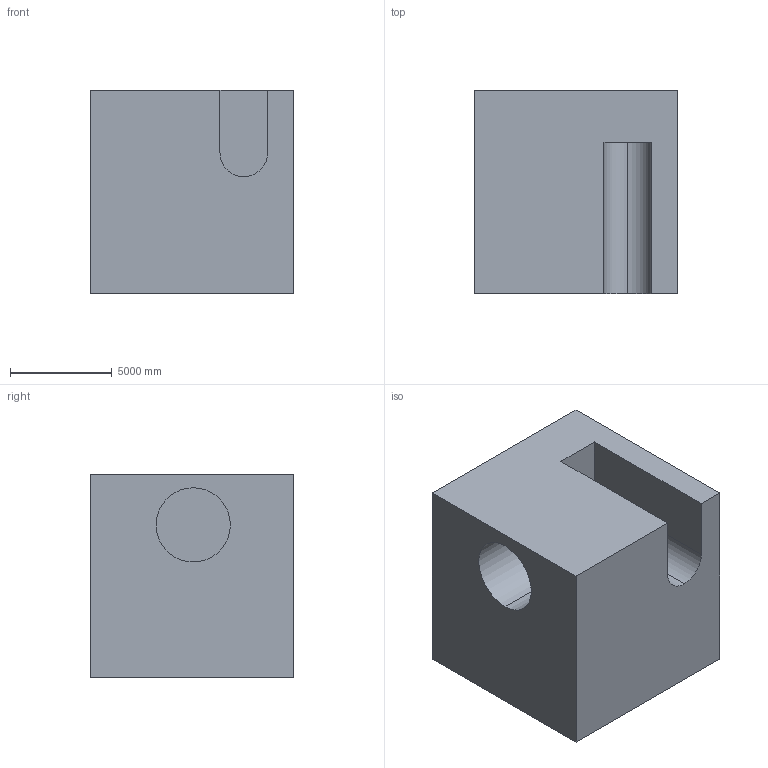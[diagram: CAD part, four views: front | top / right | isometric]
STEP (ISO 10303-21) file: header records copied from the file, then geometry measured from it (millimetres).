
FILE_DESCRIPTION (( 'STEP AP203' ), '1' );
FILE_NAME ('1174.STEP', '2022-08-18T13:03:06', ( 'user' ), ( '' ), 'SwSTEP 2.0', 'SolidWorks 2021', '' );
FILE_SCHEMA (( 'CONFIG_CONTROL_DESIGN' ));
Length unit declared in the file: centimetre
Products named in the file (1): 1174
Bounding box: 10000 x 10000 x 10000 mm (x, y, z)
Volume: 876982740819.5 mm3; surface area: 714345415.8 mm2
Topology: 1 solids, 1 shells, 14 faces, 33 edges, 22 vertices
Faces by surface type: plane 10, cylinder 4
Entity records: 482 total; most frequent: DIRECTION 71, CARTESIAN_POINT 70, ORIENTED_EDGE 66, EDGE_CURVE 33, VECTOR 25, LINE 25, AXIS2_PLACEMENT_3D 23, VERTEX_POINT 22
